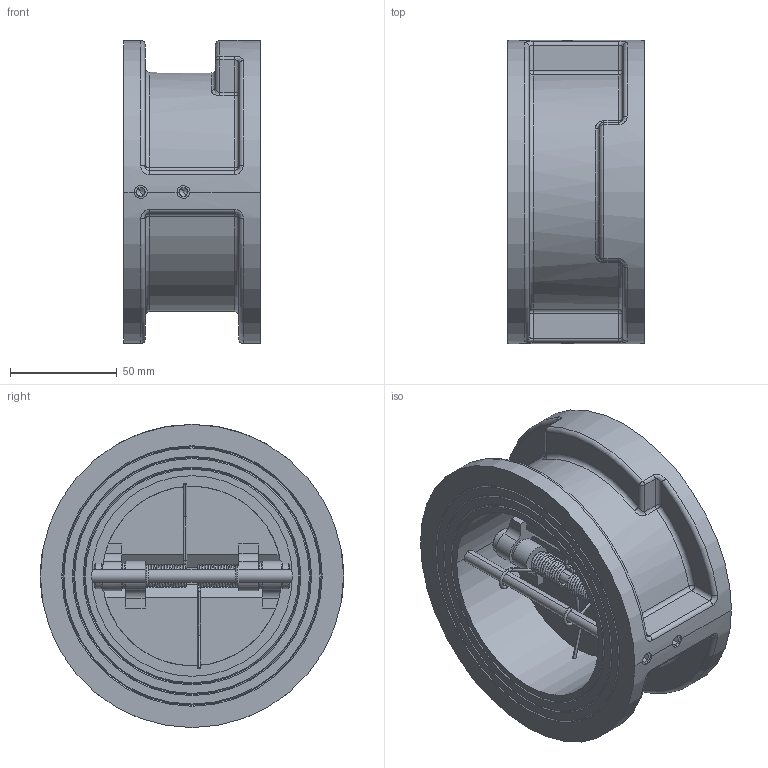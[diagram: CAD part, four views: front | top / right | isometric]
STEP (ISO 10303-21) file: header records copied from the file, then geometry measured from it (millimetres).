
FILE_DESCRIPTION(('Open CASCADE Model'),'2;1');
FILE_NAME('Open CASCADE Shape Model','2022-03-10T07:50:29',('Author'),( 'Open CASCADE'),'Open CASCADE STEP processor 7.3','Open CASCADE 7.3' ,'Unknown');
FILE_SCHEMA(('AUTOMOTIVE_DESIGN { 1 0 10303 214 1 1 1 1 }'));
Length unit declared in the file: millimetre
Products named in the file (21): Open CASCADE STEP translator 7.3 1; Open CASCADE STEP translator 7.3 1.1; Open CASCADE STEP translator 7.3 1.2; Open CASCADE STEP translator 7.3 1.3; Open CASCADE STEP translator 7.3 1.4; Open CASCADE STEP translator 7.3 1.5; Open CASCADE STEP translator 7.3 1.6; Open CASCADE STEP translator 7.3 1.7; Open CASCADE STEP translator 7.3 1.8; Open CASCADE STEP translator 7.3 1.9; Open CASCADE STEP translator 7.3 1.10; Open CASCADE STEP translator 7.3 1.11; Open CASCADE STEP translator 7.3 1.12; Open CASCADE STEP translator 7.3 1.13; Open CASCADE STEP translator 7.3 1.14; Open CASCADE STEP translator 7.3 1.15; Open CASCADE STEP translator 7.3 1.16; Open CASCADE STEP translator 7.3 1.17; Open CASCADE STEP translator 7.3 1.18; Open CASCADE STEP translator 7.3 1.19; Open CASCADE STEP translator 7.3 1.20
Assembly tree (20 placements, depth 2):
  Open CASCADE STEP translator 7.3 1
    Open CASCADE STEP translator 7.3 1.1
    Open CASCADE STEP translator 7.3 1.2
    Open CASCADE STEP translator 7.3 1.3
    Open CASCADE STEP translator 7.3 1.4
    Open CASCADE STEP translator 7.3 1.5
    Open CASCADE STEP translator 7.3 1.6
    Open CASCADE STEP translator 7.3 1.7
    Open CASCADE STEP translator 7.3 1.8
    Open CASCADE STEP translator 7.3 1.9
    Open CASCADE STEP translator 7.3 1.10
    Open CASCADE STEP translator 7.3 1.11
    Open CASCADE STEP translator 7.3 1.12
    Open CASCADE STEP translator 7.3 1.13
    Open CASCADE STEP translator 7.3 1.14
    Open CASCADE STEP translator 7.3 1.15
    Open CASCADE STEP translator 7.3 1.16
    Open CASCADE STEP translator 7.3 1.17
    Open CASCADE STEP translator 7.3 1.18
    Open CASCADE STEP translator 7.3 1.19
    Open CASCADE STEP translator 7.3 1.20
Bounding box: 64 x 142 x 142 mm (x, y, z)
Volume: 471706.8 mm3; surface area: 122841.9 mm2
Topology: 20 solids, 20 shells, 436 faces, 1009 edges, 592 vertices
Faces by surface type: plane 143, cylinder 135, cone 90, torus 36, bspline 20, sphere 12
Entity records: 45172 total; most frequent: CARTESIAN_POINT 24938, DIRECTION 3811, ORIENTED_EDGE 1978, PCURVE 1978, DEFINITIONAL_REPRESENTATION 1978, LINE 1859, VECTOR 1859, EDGE_CURVE 989
